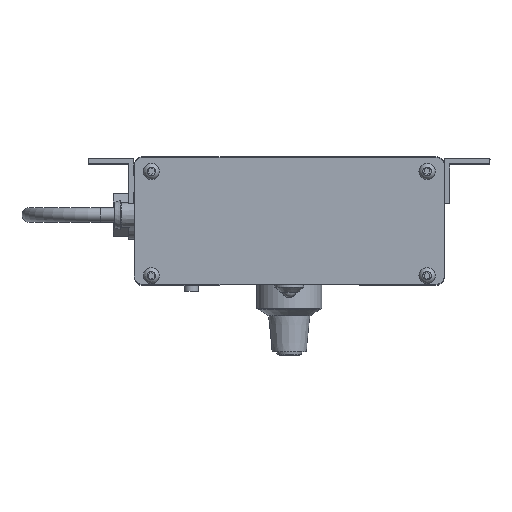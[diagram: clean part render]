
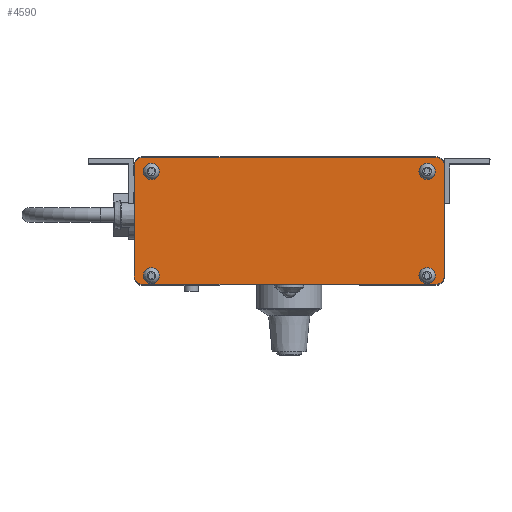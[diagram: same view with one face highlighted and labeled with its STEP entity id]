
A CAD part, top view. The second image highlights one B-rep face of the part: STEP entity #4590.
In plain terms, the highlighted planar face has unit normal (0, 0, 1).
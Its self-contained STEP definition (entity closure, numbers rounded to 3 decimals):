
#4590=ADVANCED_FACE('', (#4600), #4610, .T.);
#34480=AXIS2_PLACEMENT_3D('Ax2Pl3d', #34490, #34500, #34510);
#34640=AXIS2_PLACEMENT_3D('Ax2Pl3d', #34650, #34660, #34670);
#34800=AXIS2_PLACEMENT_3D('Ax2Pl3d', #34810, #34820, #34830);
#34960=AXIS2_PLACEMENT_3D('Ax2Pl3d', #34970, #34980, #34990);
#35040=AXIS2_PLACEMENT_3D('Ax2Pl3d', #35050, #35060, #35070);
#110510=CARTESIAN_POINT('', (18.393,5.,774.184));
#110550=CARTESIAN_POINT('', (18.393,43.5,774.184));
#110560=CARTESIAN_POINT('', (18.393,5.,774.184));
#110590=CARTESIAN_POINT('', (15.393,46.5,774.184));
#34490=CARTESIAN_POINT('HicPkt', (15.393,43.5,774.184));
#110630=CARTESIAN_POINT('', (-87.107,46.5,774.184));
#110640=CARTESIAN_POINT('', (15.393,46.5,774.184));
#110670=CARTESIAN_POINT('', (-90.107,43.5,774.184));
#34650=CARTESIAN_POINT('HicPkt', (-87.107,43.5,774.184));
#110710=CARTESIAN_POINT('', (-90.107,5.,774.184));
#110720=CARTESIAN_POINT('', (-90.107,43.5,774.184));
#110750=CARTESIAN_POINT('', (-87.107,2.,774.184));
#34810=CARTESIAN_POINT('HicPkt', (-87.107,5.,774.184));
#110790=CARTESIAN_POINT('', (15.393,2.,774.184));
#110800=CARTESIAN_POINT('', (-87.107,2.,774.184));
#34970=CARTESIAN_POINT('HicPkt', (15.393,5.,774.184));
#35050=CARTESIAN_POINT('HicPkt', (18.393,43.5,774.184));
#127070=CIRCLE('Circle', #34480, 3.);
#127090=CIRCLE('Circle', #34640, 3.);
#127110=CIRCLE('Circle', #34800, 3.);
#127130=CIRCLE('Circle', #34960, 3.);
#179570=DIRECTION('', (0.,-1.,0.));
#34500=DIRECTION('Axis', (0.,0.,-1.));
#34510=DIRECTION('RefDirection', (-1.,-0.,0.));
#179610=DIRECTION('', (1.,0.,0.));
#34660=DIRECTION('Axis', (0.,0.,-1.));
#34670=DIRECTION('RefDirection', (-1.,-0.,0.));
#179650=DIRECTION('', (0.,1.,0.));
#34820=DIRECTION('Axis', (0.,0.,-1.));
#34830=DIRECTION('RefDirection', (-1.,-0.,0.));
#179690=DIRECTION('', (-1.,0.,0.));
#34980=DIRECTION('Axis', (0.,0.,-1.));
#34990=DIRECTION('RefDirection', (-1.,-0.,0.));
#35060=DIRECTION('Axis', (0.,0.,1.));
#35070=DIRECTION('RefDirection', (1.,0.,-0.));
#191590=EDGE_CURVE('', #191570, #191510, #191600, .T.);
#191660=EDGE_CURVE('', #191640, #191570, #127070, .T.);
#191730=EDGE_CURVE('', #191710, #191640, #191740, .T.);
#191800=EDGE_CURVE('', #191780, #191710, #127090, .T.);
#191870=EDGE_CURVE('', #191850, #191780, #191880, .T.);
#191940=EDGE_CURVE('', #191920, #191850, #127110, .T.);
#192010=EDGE_CURVE('', #191990, #191920, #192020, .T.);
#192040=EDGE_CURVE('', #191510, #191990, #127130, .T.);
#225680=EDGE_LOOP('Edge_loop', (#225690,#225700,#225710,#225720,#225730,
#225740,#225750,#225760));
#4600=FACE_OUTER_BOUND('Face_outer_bound', #225680, .T.);
#191600=LINE('Line', #110560, #267000);
#191740=LINE('Line', #110640, #267040);
#191880=LINE('Line', #110720, #267080);
#192020=LINE('Line', #110800, #267120);
#225690=ORIENTED_EDGE('', *, *, #191590, .F.);
#225700=ORIENTED_EDGE('', *, *, #191660, .F.);
#225710=ORIENTED_EDGE('', *, *, #191730, .F.);
#225720=ORIENTED_EDGE('', *, *, #191800, .F.);
#225730=ORIENTED_EDGE('', *, *, #191870, .F.);
#225740=ORIENTED_EDGE('', *, *, #191940, .F.);
#225750=ORIENTED_EDGE('', *, *, #192010, .F.);
#225760=ORIENTED_EDGE('', *, *, #192040, .F.);
#4610=PLANE('Plane', #35040);
#267000=VECTOR('', #179570, 38.5);
#267040=VECTOR('', #179610, 102.5);
#267080=VECTOR('', #179650, 38.5);
#267120=VECTOR('', #179690, 102.5);
#191510=VERTEX_POINT('', #110510);
#191570=VERTEX_POINT('', #110550);
#191640=VERTEX_POINT('', #110590);
#191710=VERTEX_POINT('', #110630);
#191780=VERTEX_POINT('', #110670);
#191850=VERTEX_POINT('', #110710);
#191920=VERTEX_POINT('', #110750);
#191990=VERTEX_POINT('', #110790);
